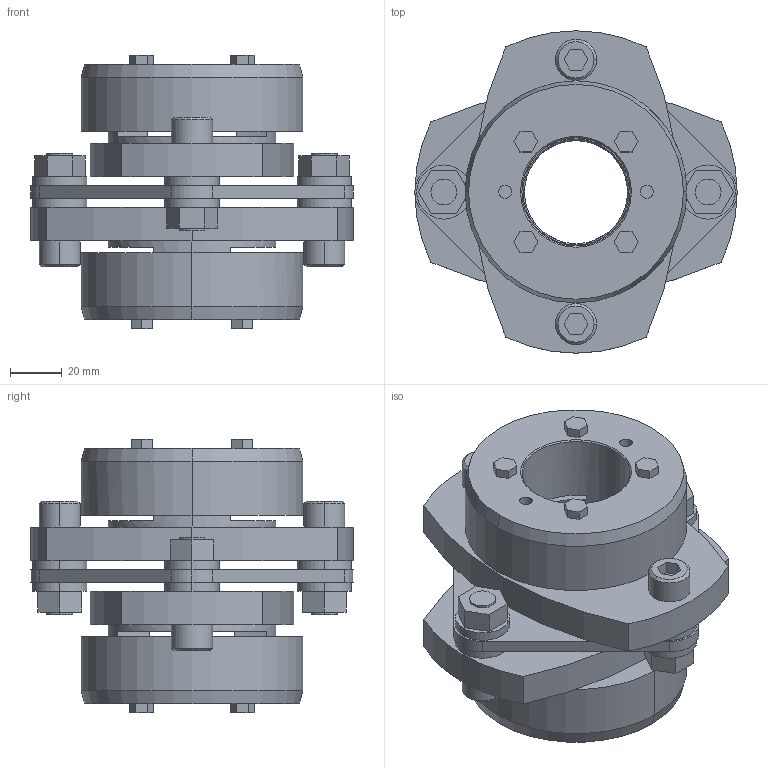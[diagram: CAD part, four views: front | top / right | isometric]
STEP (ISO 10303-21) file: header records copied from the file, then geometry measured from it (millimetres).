
FILE_DESCRIPTION((''),'2;1');
FILE_NAME('LCS-125T7-40×42.stp','2011-09-07T10:02:55',(''),(''),'AutoCAD STEP 2000i','AutoCAD 2000i',', , ');
FILE_SCHEMA(('CONFIG_CONTROL_DESIGN'));
Length unit declared in the file: millimetre
Products named in the file (9): LCS-125T7-40×40; 忣兜1; LC125T7-T040-1; LC125T7-T040; LC125T7-T038; LC125T7-T035; LC125T7-T032-1; LC125T7-T032; LCS125-ITA
Assembly tree (8 placements, depth 2):
  LCS-125T7-40×40
    忣兜1
    LC125T7-T040-1
    LC125T7-T040
    LC125T7-T038
    LC125T7-T035
    LC125T7-T032-1
    LC125T7-T032
    LCS125-ITA
Bounding box: 125 x 125 x 106 mm (x, y, z)
Volume: 489655.1 mm3; surface area: 99331.2 mm2
Topology: 1 solids, 1 shells, 246 faces, 606 edges, 398 vertices
Faces by surface type: plane 146, cylinder 80, cone 20
Entity records: 7527 total; most frequent: DIRECTION 1314, CARTESIAN_POINT 1259, ORIENTED_EDGE 1212, EDGE_CURVE 606, AXIS2_PLACEMENT_3D 453, VECTOR 408, LINE 408, VERTEX_POINT 398
